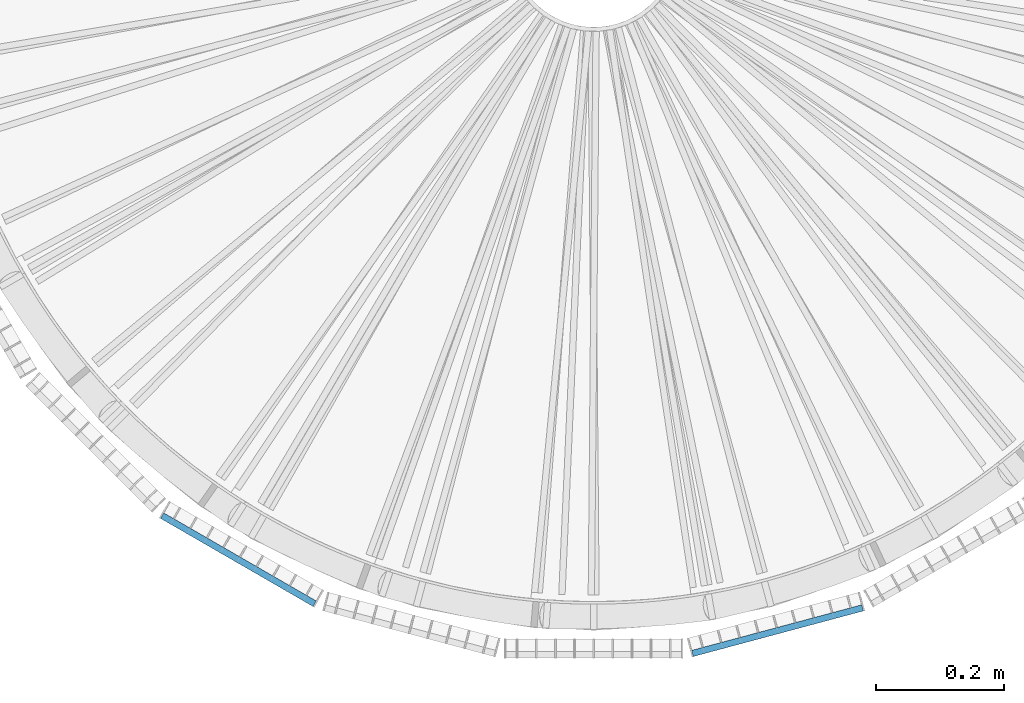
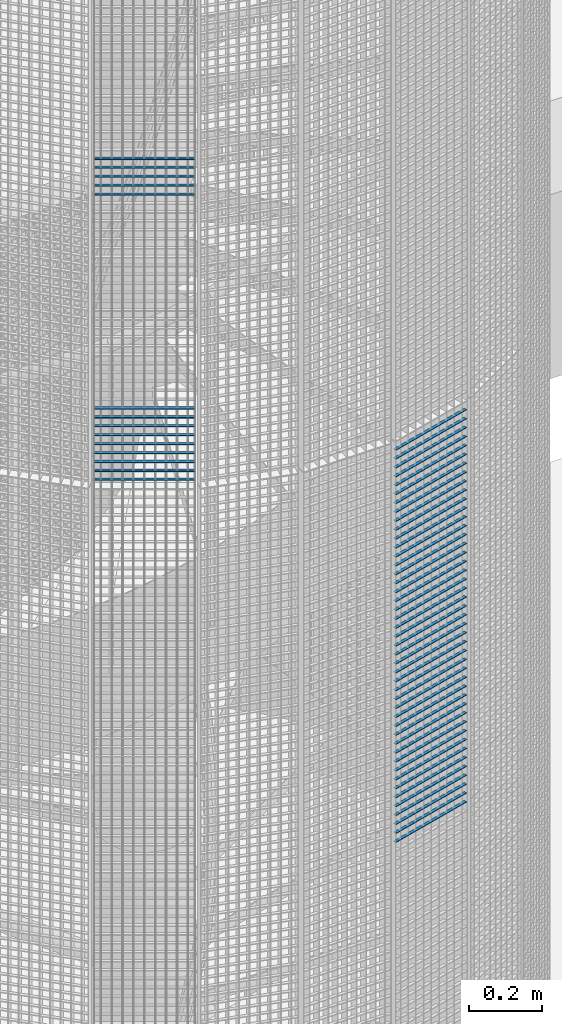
# One storey, part 148 of 1183: 59 beams, 2 elements without a shape of their own.
"""IFC2X3 building model written with IfcOpenShell, lengths in millimetres."""

from ifc_helpers import new_model, si_unit, frame, origin_with_axes, origin_2d_with_axis, place, context, subcontext, project, spatial, rectangle, extrude, material, type_object, element, aggregate, save


model = new_model("IFC2X3")

# Units and contexts
model_context = context("Model", 3, precision=1e-05, world=origin_with_axes())
body_context = subcontext(model_context, "Body", "Model", "MODEL_VIEW")
ifc_project = project(units=[si_unit("LENGTHUNIT", "METRE", prefix="MILLI"), si_unit("AREAUNIT", "SQUARE_METRE"), si_unit("VOLUMEUNIT", "CUBIC_METRE"), si_unit("MASSUNIT", "GRAM", prefix="KILO"), si_unit("TIMEUNIT", "SECOND"), si_unit("PLANEANGLEUNIT", "RADIAN"), si_unit("SOLIDANGLEUNIT", "STERADIAN"), si_unit("THERMODYNAMICTEMPERATUREUNIT", "DEGREE_CELSIUS"), si_unit("LUMINOUSINTENSITYUNIT", "LUMEN")], contexts=[model_context])

# Site, building, storey
site_placement = place(None, origin_with_axes())
site = spatial("IfcSite", under=ifc_project, at=site_placement, Name="Undefined", CompositionType="ELEMENT")
building_placement = place(site_placement, origin_with_axes())
building = spatial("IfcBuilding", under=site, at=building_placement, Name="Undefined", CompositionType="ELEMENT")
storey_placement = place(building_placement, origin_with_axes())
storey = spatial("IfcBuildingStorey", under=building, at=storey_placement, Name="Undefined", CompositionType="ELEMENT", Elevation=0.0)

# Assembly, beams
assembly_1_placement = place(storey_placement, origin_with_axes())
assembly_1 = element("IfcElementAssembly", 1, at=assembly_1_placement, inside=storey, Name="BORDURE", AssemblyPlace="NOTDEFINED", PredefinedType="NOTDEFINED")
ifc_material = material(Name="STEEL/S235JR")
beam_type = type_object("IfcBeamType", Name="PL2*10", PredefinedType="NOTDEFINED")
beam_1_placement = place(assembly_1_placement, frame((-676.24804453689, -895.30396491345, 12270.0), z_axis=(-0.49999999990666, -0.866025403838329, 0.0), x_axis=(0.866025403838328, -0.49999999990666, 0.0)))
beam_1 = element("IfcBeam", 2, at=beam_1_placement, type_object=beam_type, material=ifc_material, Name="ENTRETOISE", context=body_context, shape_type="SweptSolid", body=[
    extrude(rectangle(XDim=2.0, YDim=10.0, at=origin_2d_with_axis()), frame((275.999999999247, 9.09494701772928e-13, 1.53210777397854e-14), z_axis=(-1.0, 0.0, 0.0), x_axis=(0.0, -1.0, 0.0)), (0.0, 0.0, 1.0), 276.0),
])
beam_2_placement = place(assembly_1_placement, frame((-676.248044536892, -895.303964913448, 12990.0), z_axis=(-0.49999999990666, -0.866025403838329, 0.0), x_axis=(0.866025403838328, -0.49999999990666, 0.0)))
beam_2 = element("IfcBeam", 3, at=beam_2_placement, type_object=beam_type, material=ifc_material, Name="ENTRETOISE", context=body_context, shape_type="SweptSolid", body=[
    extrude(rectangle(XDim=2.0, YDim=10.0, at=origin_2d_with_axis()), frame((275.999999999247, 9.09494701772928e-13, 1.53210777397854e-14), z_axis=(-1.0, 0.0, 0.0), x_axis=(0.0, -1.0, 0.0)), (0.0, 0.0, 1.0), 276.0),
])
beam_3_placement = place(assembly_1_placement, frame((-676.24804453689, -895.30396491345, 12240.0), z_axis=(-0.49999999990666, -0.866025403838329, 0.0), x_axis=(0.866025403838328, -0.49999999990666, 0.0)))
beam_3 = element("IfcBeam", 4, at=beam_3_placement, type_object=beam_type, material=ifc_material, Name="ENTRETOISE", context=body_context, shape_type="SweptSolid", body=[
    extrude(rectangle(XDim=2.0, YDim=10.0, at=origin_2d_with_axis()), frame((275.999999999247, 9.09494701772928e-13, 1.53210777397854e-14), z_axis=(-1.0, 0.0, 0.0), x_axis=(0.0, -1.0, 0.0)), (0.0, 0.0, 1.0), 276.0),
])
beam_4_placement = place(assembly_1_placement, frame((-676.248044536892, -895.303964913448, 13020.0), z_axis=(-0.49999999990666, -0.866025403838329, 0.0), x_axis=(0.866025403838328, -0.49999999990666, 0.0)))
beam_4 = element("IfcBeam", 5, at=beam_4_placement, type_object=beam_type, material=ifc_material, Name="ENTRETOISE", context=body_context, shape_type="SweptSolid", body=[
    extrude(rectangle(XDim=2.0, YDim=10.0, at=origin_2d_with_axis()), frame((275.999999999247, 9.09494701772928e-13, 1.53210777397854e-14), z_axis=(-1.0, 0.0, 0.0), x_axis=(0.0, -1.0, 0.0)), (0.0, 0.0, 1.0), 276.0),
])
beam_5_placement = place(assembly_1_placement, frame((-676.24804453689, -895.30396491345, 12210.0), z_axis=(-0.49999999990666, -0.866025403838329, 0.0), x_axis=(0.866025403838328, -0.49999999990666, 0.0)))
beam_5 = element("IfcBeam", 6, at=beam_5_placement, type_object=beam_type, material=ifc_material, Name="ENTRETOISE", context=body_context, shape_type="SweptSolid", body=[
    extrude(rectangle(XDim=2.0, YDim=10.0, at=origin_2d_with_axis()), frame((275.999999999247, 9.09494701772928e-13, 1.53210777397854e-14), z_axis=(-1.0, 0.0, 0.0), x_axis=(0.0, -1.0, 0.0)), (0.0, 0.0, 1.0), 276.0),
])
beam_6_placement = place(assembly_1_placement, frame((-676.24804453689, -895.30396491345, 12180.0), z_axis=(-0.49999999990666, -0.866025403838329, 0.0), x_axis=(0.866025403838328, -0.49999999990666, 0.0)))
beam_6 = element("IfcBeam", 7, at=beam_6_placement, type_object=beam_type, material=ifc_material, Name="ENTRETOISE", context=body_context, shape_type="SweptSolid", body=[
    extrude(rectangle(XDim=2.0, YDim=10.0, at=origin_2d_with_axis()), frame((275.999999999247, 9.09494701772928e-13, 1.53210777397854e-14), z_axis=(-1.0, 0.0, 0.0), x_axis=(0.0, -1.0, 0.0)), (0.0, 0.0, 1.0), 276.0),
])
beam_7_placement = place(assembly_1_placement, frame((-676.248044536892, -895.303964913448, 13050.0), z_axis=(-0.49999999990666, -0.866025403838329, 0.0), x_axis=(0.866025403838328, -0.49999999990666, 0.0)))
beam_7 = element("IfcBeam", 8, at=beam_7_placement, type_object=beam_type, material=ifc_material, Name="ENTRETOISE", context=body_context, shape_type="SweptSolid", body=[
    extrude(rectangle(XDim=2.0, YDim=10.0, at=origin_2d_with_axis()), frame((275.999999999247, 9.09494701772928e-13, 1.53210777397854e-14), z_axis=(-1.0, 0.0, 0.0), x_axis=(0.0, -1.0, 0.0)), (0.0, 0.0, 1.0), 276.0),
])
beam_8_placement = place(assembly_1_placement, frame((-676.24804453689, -895.30396491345, 12150.0), z_axis=(-0.49999999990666, -0.866025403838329, 0.0), x_axis=(0.866025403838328, -0.49999999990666, 0.0)))
beam_8 = element("IfcBeam", 9, at=beam_8_placement, type_object=beam_type, material=ifc_material, Name="ENTRETOISE", context=body_context, shape_type="SweptSolid", body=[
    extrude(rectangle(XDim=2.0, YDim=10.0, at=origin_2d_with_axis()), frame((275.999999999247, 9.09494701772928e-13, 1.53210777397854e-14), z_axis=(-1.0, 0.0, 0.0), x_axis=(0.0, -1.0, 0.0)), (0.0, 0.0, 1.0), 276.0),
])
beam_9_placement = place(assembly_1_placement, frame((-676.248044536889, -895.30396491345, 12120.0), z_axis=(-0.49999999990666, -0.866025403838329, 0.0), x_axis=(0.866025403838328, -0.49999999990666, 0.0)))
beam_9 = element("IfcBeam", 10, at=beam_9_placement, type_object=beam_type, material=ifc_material, Name="ENTRETOISE", context=body_context, shape_type="SweptSolid", body=[
    extrude(rectangle(XDim=2.0, YDim=10.0, at=origin_2d_with_axis()), frame((275.999999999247, 9.09494701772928e-13, 1.53210777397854e-14), z_axis=(-1.0, 0.0, 0.0), x_axis=(0.0, -1.0, 0.0)), (0.0, 0.0, 1.0), 276.0),
])
beam_10_placement = place(assembly_1_placement, frame((-676.248044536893, -895.303964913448, 13080.0), z_axis=(-0.49999999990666, -0.866025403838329, 0.0), x_axis=(0.866025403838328, -0.49999999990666, 0.0)))
beam_10 = element("IfcBeam", 11, at=beam_10_placement, type_object=beam_type, material=ifc_material, Name="ENTRETOISE", context=body_context, shape_type="SweptSolid", body=[
    extrude(rectangle(XDim=2.0, YDim=10.0, at=origin_2d_with_axis()), frame((275.999999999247, 9.09494701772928e-13, 1.53210777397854e-14), z_axis=(-1.0, 0.0, 0.0), x_axis=(0.0, -1.0, 0.0)), (0.0, 0.0, 1.0), 276.0),
])
beam_11_placement = place(assembly_1_placement, frame((-676.248044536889, -895.30396491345, 12090.0), z_axis=(-0.49999999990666, -0.866025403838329, 0.0), x_axis=(0.866025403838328, -0.49999999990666, 0.0)))
beam_11 = element("IfcBeam", 12, at=beam_11_placement, type_object=beam_type, material=ifc_material, Name="ENTRETOISE", context=body_context, shape_type="SweptSolid", body=[
    extrude(rectangle(XDim=2.0, YDim=10.0, at=origin_2d_with_axis()), frame((275.999999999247, 9.09494701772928e-13, 1.53210777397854e-14), z_axis=(-1.0, 0.0, 0.0), x_axis=(0.0, -1.0, 0.0)), (0.0, 0.0, 1.0), 276.0),
])
beam_12_placement = place(assembly_1_placement, frame((-676.248044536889, -895.30396491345, 12060.0), z_axis=(-0.49999999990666, -0.866025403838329, 0.0), x_axis=(0.866025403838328, -0.49999999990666, 0.0)))
beam_12 = element("IfcBeam", 13, at=beam_12_placement, type_object=beam_type, material=ifc_material, Name="ENTRETOISE", context=body_context, shape_type="SweptSolid", body=[
    extrude(rectangle(XDim=2.0, YDim=10.0, at=origin_2d_with_axis()), frame((275.999999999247, 9.09494701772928e-13, 1.53210777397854e-14), z_axis=(-1.0, 0.0, 0.0), x_axis=(0.0, -1.0, 0.0)), (0.0, 0.0, 1.0), 276.0),
])
beam_13_placement = place(assembly_1_placement, frame((-676.248044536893, -895.303964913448, 13110.0), z_axis=(-0.49999999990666, -0.866025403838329, 0.0), x_axis=(0.866025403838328, -0.49999999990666, 0.0)))
beam_13 = element("IfcBeam", 14, at=beam_13_placement, type_object=beam_type, material=ifc_material, Name="ENTRETOISE", context=body_context, shape_type="SweptSolid", body=[
    extrude(rectangle(XDim=2.0, YDim=10.0, at=origin_2d_with_axis()), frame((275.999999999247, 9.09494701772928e-13, 1.53210777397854e-14), z_axis=(-1.0, 0.0, 0.0), x_axis=(0.0, -1.0, 0.0)), (0.0, 0.0, 1.0), 276.0),
])
beam_14_placement = place(assembly_1_placement, frame((-676.248044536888, -895.30396491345, 12030.0), z_axis=(-0.49999999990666, -0.866025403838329, 0.0), x_axis=(0.866025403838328, -0.49999999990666, 0.0)))
beam_14 = element("IfcBeam", 15, at=beam_14_placement, type_object=beam_type, material=ifc_material, Name="ENTRETOISE", context=body_context, shape_type="SweptSolid", body=[
    extrude(rectangle(XDim=2.0, YDim=10.0, at=origin_2d_with_axis()), frame((275.999999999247, 9.09494701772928e-13, 1.53210777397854e-14), z_axis=(-1.0, 0.0, 0.0), x_axis=(0.0, -1.0, 0.0)), (0.0, 0.0, 1.0), 276.0),
])
aggregate(assembly_1, [beam_1, beam_2, beam_3, beam_4, beam_5, beam_6, beam_7, beam_8, beam_9, beam_10, beam_11, beam_12, beam_13, beam_14])

assembly_2_placement = place(storey_placement, origin_with_axes())
assembly_2 = element("IfcElementAssembly", 16, at=assembly_2_placement, inside=storey, Name="BORDURE", AssemblyPlace="NOTDEFINED", PredefinedType="NOTDEFINED")
beam_15_placement = place(assembly_2_placement, frame((154.895926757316, -1111.25508286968, 11970.0), z_axis=(0.258819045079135, -0.965925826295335, 0.0), x_axis=(0.965925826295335, 0.258819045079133, 0.0)))
beam_15 = element("IfcBeam", 17, at=beam_15_placement, type_object=beam_type, material=ifc_material, Name="ENTRETOISE", context=body_context, shape_type="SweptSolid", body=[
    extrude(rectangle(XDim=2.0, YDim=10.0, at=origin_2d_with_axis()), frame((275.999999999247, 9.09494701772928e-13, 1.53210777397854e-14), z_axis=(-1.0, 0.0, 0.0), x_axis=(0.0, -1.0, 0.0)), (0.0, 0.0, 1.0), 276.0),
])
beam_16_placement = place(assembly_2_placement, frame((154.895926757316, -1111.25508286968, 11940.0), z_axis=(0.258819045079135, -0.965925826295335, 0.0), x_axis=(0.965925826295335, 0.258819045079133, 0.0)))
beam_16 = element("IfcBeam", 18, at=beam_16_placement, type_object=beam_type, material=ifc_material, Name="ENTRETOISE", context=body_context, shape_type="SweptSolid", body=[
    extrude(rectangle(XDim=2.0, YDim=10.0, at=origin_2d_with_axis()), frame((275.999999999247, 9.09494701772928e-13, 1.53210777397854e-14), z_axis=(-1.0, 0.0, 0.0), x_axis=(0.0, -1.0, 0.0)), (0.0, 0.0, 1.0), 276.0),
])
beam_17_placement = place(assembly_2_placement, frame((154.895926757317, -1111.25508286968, 11910.0), z_axis=(0.258819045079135, -0.965925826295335, 0.0), x_axis=(0.965925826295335, 0.258819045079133, 0.0)))
beam_17 = element("IfcBeam", 19, at=beam_17_placement, type_object=beam_type, material=ifc_material, Name="ENTRETOISE", context=body_context, shape_type="SweptSolid", body=[
    extrude(rectangle(XDim=2.0, YDim=10.0, at=origin_2d_with_axis()), frame((275.999999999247, 9.09494701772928e-13, 1.53210777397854e-14), z_axis=(-1.0, 0.0, 0.0), x_axis=(0.0, -1.0, 0.0)), (0.0, 0.0, 1.0), 276.0),
])
beam_18_placement = place(assembly_2_placement, frame((154.895926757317, -1111.25508286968, 11880.0), z_axis=(0.258819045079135, -0.965925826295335, 0.0), x_axis=(0.965925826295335, 0.258819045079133, 0.0)))
beam_18 = element("IfcBeam", 20, at=beam_18_placement, type_object=beam_type, material=ifc_material, Name="ENTRETOISE", context=body_context, shape_type="SweptSolid", body=[
    extrude(rectangle(XDim=2.0, YDim=10.0, at=origin_2d_with_axis()), frame((275.999999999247, 9.09494701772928e-13, 1.53210777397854e-14), z_axis=(-1.0, 0.0, 0.0), x_axis=(0.0, -1.0, 0.0)), (0.0, 0.0, 1.0), 276.0),
])
beam_19_placement = place(assembly_2_placement, frame((154.895926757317, -1111.25508286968, 11850.0), z_axis=(0.258819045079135, -0.965925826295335, 0.0), x_axis=(0.965925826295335, 0.258819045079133, 0.0)))
beam_19 = element("IfcBeam", 21, at=beam_19_placement, type_object=beam_type, material=ifc_material, Name="ENTRETOISE", context=body_context, shape_type="SweptSolid", body=[
    extrude(rectangle(XDim=2.0, YDim=10.0, at=origin_2d_with_axis()), frame((275.999999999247, 9.09494701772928e-13, 1.53210777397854e-14), z_axis=(-1.0, 0.0, 0.0), x_axis=(0.0, -1.0, 0.0)), (0.0, 0.0, 1.0), 276.0),
])
beam_20_placement = place(assembly_2_placement, frame((154.895926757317, -1111.25508286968, 11820.0), z_axis=(0.258819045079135, -0.965925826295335, 0.0), x_axis=(0.965925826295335, 0.258819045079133, 0.0)))
beam_20 = element("IfcBeam", 22, at=beam_20_placement, type_object=beam_type, material=ifc_material, Name="ENTRETOISE", context=body_context, shape_type="SweptSolid", body=[
    extrude(rectangle(XDim=2.0, YDim=10.0, at=origin_2d_with_axis()), frame((275.999999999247, 9.09494701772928e-13, 1.53210777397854e-14), z_axis=(-1.0, 0.0, 0.0), x_axis=(0.0, -1.0, 0.0)), (0.0, 0.0, 1.0), 276.0),
])
beam_21_placement = place(assembly_2_placement, frame((154.895926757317, -1111.25508286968, 11790.0), z_axis=(0.258819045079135, -0.965925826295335, 0.0), x_axis=(0.965925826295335, 0.258819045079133, 0.0)))
beam_21 = element("IfcBeam", 23, at=beam_21_placement, type_object=beam_type, material=ifc_material, Name="ENTRETOISE", context=body_context, shape_type="SweptSolid", body=[
    extrude(rectangle(XDim=2.0, YDim=10.0, at=origin_2d_with_axis()), frame((275.999999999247, 9.09494701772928e-13, 1.53210777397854e-14), z_axis=(-1.0, 0.0, 0.0), x_axis=(0.0, -1.0, 0.0)), (0.0, 0.0, 1.0), 276.0),
])
beam_22_placement = place(assembly_2_placement, frame((154.895926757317, -1111.25508286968, 11760.0), z_axis=(0.258819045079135, -0.965925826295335, 0.0), x_axis=(0.965925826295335, 0.258819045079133, 0.0)))
beam_22 = element("IfcBeam", 24, at=beam_22_placement, type_object=beam_type, material=ifc_material, Name="ENTRETOISE", context=body_context, shape_type="SweptSolid", body=[
    extrude(rectangle(XDim=2.0, YDim=10.0, at=origin_2d_with_axis()), frame((275.999999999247, 9.09494701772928e-13, 1.53210777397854e-14), z_axis=(-1.0, 0.0, 0.0), x_axis=(0.0, -1.0, 0.0)), (0.0, 0.0, 1.0), 276.0),
])
beam_23_placement = place(assembly_2_placement, frame((154.895926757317, -1111.25508286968, 11730.0), z_axis=(0.258819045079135, -0.965925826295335, 0.0), x_axis=(0.965925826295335, 0.258819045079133, 0.0)))
beam_23 = element("IfcBeam", 25, at=beam_23_placement, type_object=beam_type, material=ifc_material, Name="ENTRETOISE", context=body_context, shape_type="SweptSolid", body=[
    extrude(rectangle(XDim=2.0, YDim=10.0, at=origin_2d_with_axis()), frame((275.999999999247, 9.09494701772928e-13, 1.53210777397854e-14), z_axis=(-1.0, 0.0, 0.0), x_axis=(0.0, -1.0, 0.0)), (0.0, 0.0, 1.0), 276.0),
])
beam_24_placement = place(assembly_2_placement, frame((154.895926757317, -1111.25508286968, 11700.0), z_axis=(0.258819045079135, -0.965925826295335, 0.0), x_axis=(0.965925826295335, 0.258819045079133, 0.0)))
beam_24 = element("IfcBeam", 26, at=beam_24_placement, type_object=beam_type, material=ifc_material, Name="ENTRETOISE", context=body_context, shape_type="SweptSolid", body=[
    extrude(rectangle(XDim=2.0, YDim=10.0, at=origin_2d_with_axis()), frame((275.999999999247, 9.09494701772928e-13, 1.53210777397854e-14), z_axis=(-1.0, 0.0, 0.0), x_axis=(0.0, -1.0, 0.0)), (0.0, 0.0, 1.0), 276.0),
])
beam_25_placement = place(assembly_2_placement, frame((154.895926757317, -1111.25508286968, 11670.0), z_axis=(0.258819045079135, -0.965925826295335, 0.0), x_axis=(0.965925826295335, 0.258819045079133, 0.0)))
beam_25 = element("IfcBeam", 27, at=beam_25_placement, type_object=beam_type, material=ifc_material, Name="ENTRETOISE", context=body_context, shape_type="SweptSolid", body=[
    extrude(rectangle(XDim=2.0, YDim=10.0, at=origin_2d_with_axis()), frame((275.999999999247, 9.09494701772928e-13, 1.53210777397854e-14), z_axis=(-1.0, 0.0, 0.0), x_axis=(0.0, -1.0, 0.0)), (0.0, 0.0, 1.0), 276.0),
])
beam_26_placement = place(assembly_2_placement, frame((154.895926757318, -1111.25508286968, 11640.0), z_axis=(0.258819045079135, -0.965925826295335, 0.0), x_axis=(0.965925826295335, 0.258819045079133, 0.0)))
beam_26 = element("IfcBeam", 28, at=beam_26_placement, type_object=beam_type, material=ifc_material, Name="ENTRETOISE", context=body_context, shape_type="SweptSolid", body=[
    extrude(rectangle(XDim=2.0, YDim=10.0, at=origin_2d_with_axis()), frame((275.999999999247, 9.09494701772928e-13, 1.53210777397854e-14), z_axis=(-1.0, 0.0, 0.0), x_axis=(0.0, -1.0, 0.0)), (0.0, 0.0, 1.0), 276.0),
])
beam_27_placement = place(assembly_2_placement, frame((154.895926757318, -1111.25508286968, 11610.0), z_axis=(0.258819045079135, -0.965925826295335, 0.0), x_axis=(0.965925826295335, 0.258819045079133, 0.0)))
beam_27 = element("IfcBeam", 29, at=beam_27_placement, type_object=beam_type, material=ifc_material, Name="ENTRETOISE", context=body_context, shape_type="SweptSolid", body=[
    extrude(rectangle(XDim=2.0, YDim=10.0, at=origin_2d_with_axis()), frame((275.999999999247, 9.09494701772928e-13, 1.53210777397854e-14), z_axis=(-1.0, 0.0, 0.0), x_axis=(0.0, -1.0, 0.0)), (0.0, 0.0, 1.0), 276.0),
])
beam_28_placement = place(assembly_2_placement, frame((154.895926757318, -1111.25508286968, 11580.0), z_axis=(0.258819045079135, -0.965925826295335, 0.0), x_axis=(0.965925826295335, 0.258819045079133, 0.0)))
beam_28 = element("IfcBeam", 30, at=beam_28_placement, type_object=beam_type, material=ifc_material, Name="ENTRETOISE", context=body_context, shape_type="SweptSolid", body=[
    extrude(rectangle(XDim=2.0, YDim=10.0, at=origin_2d_with_axis()), frame((275.999999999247, 9.09494701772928e-13, 1.53210777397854e-14), z_axis=(-1.0, 0.0, 0.0), x_axis=(0.0, -1.0, 0.0)), (0.0, 0.0, 1.0), 276.0),
])
beam_29_placement = place(assembly_2_placement, frame((154.895926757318, -1111.25508286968, 11550.0), z_axis=(0.258819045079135, -0.965925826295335, 0.0), x_axis=(0.965925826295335, 0.258819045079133, 0.0)))
beam_29 = element("IfcBeam", 31, at=beam_29_placement, type_object=beam_type, material=ifc_material, Name="ENTRETOISE", context=body_context, shape_type="SweptSolid", body=[
    extrude(rectangle(XDim=2.0, YDim=10.0, at=origin_2d_with_axis()), frame((275.999999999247, 9.09494701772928e-13, 1.53210777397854e-14), z_axis=(-1.0, 0.0, 0.0), x_axis=(0.0, -1.0, 0.0)), (0.0, 0.0, 1.0), 276.0),
])
beam_30_placement = place(assembly_2_placement, frame((154.895926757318, -1111.25508286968, 11520.0), z_axis=(0.258819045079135, -0.965925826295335, 0.0), x_axis=(0.965925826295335, 0.258819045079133, 0.0)))
beam_30 = element("IfcBeam", 32, at=beam_30_placement, type_object=beam_type, material=ifc_material, Name="ENTRETOISE", context=body_context, shape_type="SweptSolid", body=[
    extrude(rectangle(XDim=2.0, YDim=10.0, at=origin_2d_with_axis()), frame((275.999999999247, 9.09494701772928e-13, 1.53210777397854e-14), z_axis=(-1.0, 0.0, 0.0), x_axis=(0.0, -1.0, 0.0)), (0.0, 0.0, 1.0), 276.0),
])
beam_31_placement = place(assembly_2_placement, frame((154.895926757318, -1111.25508286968, 11490.0), z_axis=(0.258819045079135, -0.965925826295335, 0.0), x_axis=(0.965925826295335, 0.258819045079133, 0.0)))
beam_31 = element("IfcBeam", 33, at=beam_31_placement, type_object=beam_type, material=ifc_material, Name="ENTRETOISE", context=body_context, shape_type="SweptSolid", body=[
    extrude(rectangle(XDim=2.0, YDim=10.0, at=origin_2d_with_axis()), frame((275.999999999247, 9.09494701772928e-13, 1.53210777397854e-14), z_axis=(-1.0, 0.0, 0.0), x_axis=(0.0, -1.0, 0.0)), (0.0, 0.0, 1.0), 276.0),
])
beam_32_placement = place(assembly_2_placement, frame((154.895926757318, -1111.25508286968, 11460.0), z_axis=(0.258819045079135, -0.965925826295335, 0.0), x_axis=(0.965925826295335, 0.258819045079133, 0.0)))
beam_32 = element("IfcBeam", 34, at=beam_32_placement, type_object=beam_type, material=ifc_material, Name="ENTRETOISE", context=body_context, shape_type="SweptSolid", body=[
    extrude(rectangle(XDim=2.0, YDim=10.0, at=origin_2d_with_axis()), frame((275.999999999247, 9.09494701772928e-13, 1.53210777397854e-14), z_axis=(-1.0, 0.0, 0.0), x_axis=(0.0, -1.0, 0.0)), (0.0, 0.0, 1.0), 276.0),
])
beam_33_placement = place(assembly_2_placement, frame((154.895926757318, -1111.25508286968, 11430.0), z_axis=(0.258819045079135, -0.965925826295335, 0.0), x_axis=(0.965925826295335, 0.258819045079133, 0.0)))
beam_33 = element("IfcBeam", 35, at=beam_33_placement, type_object=beam_type, material=ifc_material, Name="ENTRETOISE", context=body_context, shape_type="SweptSolid", body=[
    extrude(rectangle(XDim=2.0, YDim=10.0, at=origin_2d_with_axis()), frame((275.999999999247, 9.09494701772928e-13, 1.53210777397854e-14), z_axis=(-1.0, 0.0, 0.0), x_axis=(0.0, -1.0, 0.0)), (0.0, 0.0, 1.0), 276.0),
])
beam_34_placement = place(assembly_2_placement, frame((154.895926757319, -1111.25508286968, 11400.0), z_axis=(0.258819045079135, -0.965925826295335, 0.0), x_axis=(0.965925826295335, 0.258819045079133, 0.0)))
beam_34 = element("IfcBeam", 36, at=beam_34_placement, type_object=beam_type, material=ifc_material, Name="ENTRETOISE", context=body_context, shape_type="SweptSolid", body=[
    extrude(rectangle(XDim=2.0, YDim=10.0, at=origin_2d_with_axis()), frame((275.999999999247, 9.09494701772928e-13, 1.53210777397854e-14), z_axis=(-1.0, 0.0, 0.0), x_axis=(0.0, -1.0, 0.0)), (0.0, 0.0, 1.0), 276.0),
])
beam_35_placement = place(assembly_2_placement, frame((154.895926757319, -1111.25508286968, 11370.0), z_axis=(0.258819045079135, -0.965925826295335, 0.0), x_axis=(0.965925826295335, 0.258819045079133, 0.0)))
beam_35 = element("IfcBeam", 37, at=beam_35_placement, type_object=beam_type, material=ifc_material, Name="ENTRETOISE", context=body_context, shape_type="SweptSolid", body=[
    extrude(rectangle(XDim=2.0, YDim=10.0, at=origin_2d_with_axis()), frame((275.999999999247, 9.09494701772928e-13, 1.53210777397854e-14), z_axis=(-1.0, 0.0, 0.0), x_axis=(0.0, -1.0, 0.0)), (0.0, 0.0, 1.0), 276.0),
])
beam_36_placement = place(assembly_2_placement, frame((154.895926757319, -1111.25508286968, 11340.0), z_axis=(0.258819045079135, -0.965925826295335, 0.0), x_axis=(0.965925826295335, 0.258819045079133, 0.0)))
beam_36 = element("IfcBeam", 38, at=beam_36_placement, type_object=beam_type, material=ifc_material, Name="ENTRETOISE", context=body_context, shape_type="SweptSolid", body=[
    extrude(rectangle(XDim=2.0, YDim=10.0, at=origin_2d_with_axis()), frame((275.999999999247, 9.09494701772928e-13, 1.53210777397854e-14), z_axis=(-1.0, 0.0, 0.0), x_axis=(0.0, -1.0, 0.0)), (0.0, 0.0, 1.0), 276.0),
])
beam_37_placement = place(assembly_2_placement, frame((154.895926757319, -1111.25508286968, 11310.0), z_axis=(0.258819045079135, -0.965925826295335, 0.0), x_axis=(0.965925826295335, 0.258819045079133, 0.0)))
beam_37 = element("IfcBeam", 39, at=beam_37_placement, type_object=beam_type, material=ifc_material, Name="ENTRETOISE", context=body_context, shape_type="SweptSolid", body=[
    extrude(rectangle(XDim=2.0, YDim=10.0, at=origin_2d_with_axis()), frame((275.999999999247, 9.09494701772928e-13, 1.53210777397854e-14), z_axis=(-1.0, 0.0, 0.0), x_axis=(0.0, -1.0, 0.0)), (0.0, 0.0, 1.0), 276.0),
])
beam_38_placement = place(assembly_2_placement, frame((154.895926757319, -1111.25508286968, 11280.0), z_axis=(0.258819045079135, -0.965925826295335, 0.0), x_axis=(0.965925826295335, 0.258819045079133, 0.0)))
beam_38 = element("IfcBeam", 40, at=beam_38_placement, type_object=beam_type, material=ifc_material, Name="ENTRETOISE", context=body_context, shape_type="SweptSolid", body=[
    extrude(rectangle(XDim=2.0, YDim=10.0, at=origin_2d_with_axis()), frame((275.999999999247, 9.09494701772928e-13, 1.53210777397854e-14), z_axis=(-1.0, 0.0, 0.0), x_axis=(0.0, -1.0, 0.0)), (0.0, 0.0, 1.0), 276.0),
])
beam_39_placement = place(assembly_2_placement, frame((154.895926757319, -1111.25508286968, 11250.0), z_axis=(0.258819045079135, -0.965925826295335, 0.0), x_axis=(0.965925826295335, 0.258819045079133, 0.0)))
beam_39 = element("IfcBeam", 41, at=beam_39_placement, type_object=beam_type, material=ifc_material, Name="ENTRETOISE", context=body_context, shape_type="SweptSolid", body=[
    extrude(rectangle(XDim=2.0, YDim=10.0, at=origin_2d_with_axis()), frame((275.999999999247, 9.09494701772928e-13, 1.53210777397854e-14), z_axis=(-1.0, 0.0, 0.0), x_axis=(0.0, -1.0, 0.0)), (0.0, 0.0, 1.0), 276.0),
])
beam_40_placement = place(assembly_2_placement, frame((154.895926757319, -1111.25508286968, 11220.0), z_axis=(0.258819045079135, -0.965925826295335, 0.0), x_axis=(0.965925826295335, 0.258819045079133, 0.0)))
beam_40 = element("IfcBeam", 42, at=beam_40_placement, type_object=beam_type, material=ifc_material, Name="ENTRETOISE", context=body_context, shape_type="SweptSolid", body=[
    extrude(rectangle(XDim=2.0, YDim=10.0, at=origin_2d_with_axis()), frame((275.999999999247, 9.09494701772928e-13, 1.53210777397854e-14), z_axis=(-1.0, 0.0, 0.0), x_axis=(0.0, -1.0, 0.0)), (0.0, 0.0, 1.0), 276.0),
])
beam_41_placement = place(assembly_2_placement, frame((154.895926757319, -1111.25508286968, 11190.0), z_axis=(0.258819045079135, -0.965925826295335, 0.0), x_axis=(0.965925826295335, 0.258819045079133, 0.0)))
beam_41 = element("IfcBeam", 43, at=beam_41_placement, type_object=beam_type, material=ifc_material, Name="ENTRETOISE", context=body_context, shape_type="SweptSolid", body=[
    extrude(rectangle(XDim=2.0, YDim=10.0, at=origin_2d_with_axis()), frame((275.999999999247, 9.09494701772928e-13, 1.53210777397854e-14), z_axis=(-1.0, 0.0, 0.0), x_axis=(0.0, -1.0, 0.0)), (0.0, 0.0, 1.0), 276.0),
])
beam_42_placement = place(assembly_2_placement, frame((154.895926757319, -1111.25508286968, 11160.0), z_axis=(0.258819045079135, -0.965925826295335, 0.0), x_axis=(0.965925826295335, 0.258819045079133, 0.0)))
beam_42 = element("IfcBeam", 44, at=beam_42_placement, type_object=beam_type, material=ifc_material, Name="ENTRETOISE", context=body_context, shape_type="SweptSolid", body=[
    extrude(rectangle(XDim=2.0, YDim=10.0, at=origin_2d_with_axis()), frame((275.999999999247, 9.09494701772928e-13, 1.53210777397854e-14), z_axis=(-1.0, 0.0, 0.0), x_axis=(0.0, -1.0, 0.0)), (0.0, 0.0, 1.0), 276.0),
])
beam_43_placement = place(assembly_2_placement, frame((154.89592675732, -1111.25508286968, 11130.0), z_axis=(0.258819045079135, -0.965925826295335, 0.0), x_axis=(0.965925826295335, 0.258819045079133, 0.0)))
beam_43 = element("IfcBeam", 45, at=beam_43_placement, type_object=beam_type, material=ifc_material, Name="ENTRETOISE", context=body_context, shape_type="SweptSolid", body=[
    extrude(rectangle(XDim=2.0, YDim=10.0, at=origin_2d_with_axis()), frame((275.999999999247, 9.09494701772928e-13, 1.53210777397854e-14), z_axis=(-1.0, 0.0, 0.0), x_axis=(0.0, -1.0, 0.0)), (0.0, 0.0, 1.0), 276.0),
])
beam_44_placement = place(assembly_2_placement, frame((154.89592675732, -1111.25508286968, 11100.0), z_axis=(0.258819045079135, -0.965925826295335, 0.0), x_axis=(0.965925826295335, 0.258819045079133, 0.0)))
beam_44 = element("IfcBeam", 46, at=beam_44_placement, type_object=beam_type, material=ifc_material, Name="ENTRETOISE", context=body_context, shape_type="SweptSolid", body=[
    extrude(rectangle(XDim=2.0, YDim=10.0, at=origin_2d_with_axis()), frame((275.999999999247, 9.09494701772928e-13, 1.53210777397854e-14), z_axis=(-1.0, 0.0, 0.0), x_axis=(0.0, -1.0, 0.0)), (0.0, 0.0, 1.0), 276.0),
])
beam_45_placement = place(assembly_2_placement, frame((154.89592675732, -1111.25508286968, 11070.0), z_axis=(0.258819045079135, -0.965925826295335, 0.0), x_axis=(0.965925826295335, 0.258819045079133, 0.0)))
beam_45 = element("IfcBeam", 47, at=beam_45_placement, type_object=beam_type, material=ifc_material, Name="ENTRETOISE", context=body_context, shape_type="SweptSolid", body=[
    extrude(rectangle(XDim=2.0, YDim=10.0, at=origin_2d_with_axis()), frame((275.999999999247, 9.09494701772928e-13, 1.53210777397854e-14), z_axis=(-1.0, 0.0, 0.0), x_axis=(0.0, -1.0, 0.0)), (0.0, 0.0, 1.0), 276.0),
])
beam_46_placement = place(assembly_2_placement, frame((154.89592675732, -1111.25508286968, 11040.0), z_axis=(0.258819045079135, -0.965925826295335, 0.0), x_axis=(0.965925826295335, 0.258819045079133, 0.0)))
beam_46 = element("IfcBeam", 48, at=beam_46_placement, type_object=beam_type, material=ifc_material, Name="ENTRETOISE", context=body_context, shape_type="SweptSolid", body=[
    extrude(rectangle(XDim=2.0, YDim=10.0, at=origin_2d_with_axis()), frame((275.999999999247, 9.09494701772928e-13, 1.53210777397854e-14), z_axis=(-1.0, 0.0, 0.0), x_axis=(0.0, -1.0, 0.0)), (0.0, 0.0, 1.0), 276.0),
])
beam_47_placement = place(assembly_2_placement, frame((154.89592675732, -1111.25508286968, 11010.0), z_axis=(0.258819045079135, -0.965925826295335, 0.0), x_axis=(0.965925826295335, 0.258819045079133, 0.0)))
beam_47 = element("IfcBeam", 49, at=beam_47_placement, type_object=beam_type, material=ifc_material, Name="ENTRETOISE", context=body_context, shape_type="SweptSolid", body=[
    extrude(rectangle(XDim=2.0, YDim=10.0, at=origin_2d_with_axis()), frame((275.999999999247, 9.09494701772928e-13, 1.53210777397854e-14), z_axis=(-1.0, 0.0, 0.0), x_axis=(0.0, -1.0, 0.0)), (0.0, 0.0, 1.0), 276.0),
])
beam_48_placement = place(assembly_2_placement, frame((154.89592675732, -1111.25508286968, 10980.0), z_axis=(0.258819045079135, -0.965925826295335, 0.0), x_axis=(0.965925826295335, 0.258819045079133, 0.0)))
beam_48 = element("IfcBeam", 50, at=beam_48_placement, type_object=beam_type, material=ifc_material, Name="ENTRETOISE", context=body_context, shape_type="SweptSolid", body=[
    extrude(rectangle(XDim=2.0, YDim=10.0, at=origin_2d_with_axis()), frame((275.999999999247, 9.09494701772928e-13, 1.53210777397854e-14), z_axis=(-1.0, 0.0, 0.0), x_axis=(0.0, -1.0, 0.0)), (0.0, 0.0, 1.0), 276.0),
])
beam_49_placement = place(assembly_2_placement, frame((154.89592675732, -1111.25508286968, 10950.0), z_axis=(0.258819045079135, -0.965925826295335, 0.0), x_axis=(0.965925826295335, 0.258819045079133, 0.0)))
beam_49 = element("IfcBeam", 51, at=beam_49_placement, type_object=beam_type, material=ifc_material, Name="ENTRETOISE", context=body_context, shape_type="SweptSolid", body=[
    extrude(rectangle(XDim=2.0, YDim=10.0, at=origin_2d_with_axis()), frame((275.999999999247, 9.09494701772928e-13, 1.53210777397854e-14), z_axis=(-1.0, 0.0, 0.0), x_axis=(0.0, -1.0, 0.0)), (0.0, 0.0, 1.0), 276.0),
])
beam_50_placement = place(assembly_2_placement, frame((154.89592675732, -1111.25508286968, 10920.0), z_axis=(0.258819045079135, -0.965925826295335, 0.0), x_axis=(0.965925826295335, 0.258819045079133, 0.0)))
beam_50 = element("IfcBeam", 52, at=beam_50_placement, type_object=beam_type, material=ifc_material, Name="ENTRETOISE", context=body_context, shape_type="SweptSolid", body=[
    extrude(rectangle(XDim=2.0, YDim=10.0, at=origin_2d_with_axis()), frame((275.999999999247, 9.09494701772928e-13, 1.53210777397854e-14), z_axis=(-1.0, 0.0, 0.0), x_axis=(0.0, -1.0, 0.0)), (0.0, 0.0, 1.0), 276.0),
])
beam_51_placement = place(assembly_2_placement, frame((154.89592675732, -1111.25508286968, 10890.0), z_axis=(0.258819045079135, -0.965925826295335, 0.0), x_axis=(0.965925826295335, 0.258819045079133, 0.0)))
beam_51 = element("IfcBeam", 53, at=beam_51_placement, type_object=beam_type, material=ifc_material, Name="ENTRETOISE", context=body_context, shape_type="SweptSolid", body=[
    extrude(rectangle(XDim=2.0, YDim=10.0, at=origin_2d_with_axis()), frame((275.999999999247, 9.09494701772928e-13, 1.53210777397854e-14), z_axis=(-1.0, 0.0, 0.0), x_axis=(0.0, -1.0, 0.0)), (0.0, 0.0, 1.0), 276.0),
])
beam_52_placement = place(assembly_2_placement, frame((154.89592675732, -1111.25508286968, 10860.0), z_axis=(0.258819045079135, -0.965925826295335, 0.0), x_axis=(0.965925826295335, 0.258819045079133, 0.0)))
beam_52 = element("IfcBeam", 54, at=beam_52_placement, type_object=beam_type, material=ifc_material, Name="ENTRETOISE", context=body_context, shape_type="SweptSolid", body=[
    extrude(rectangle(XDim=2.0, YDim=10.0, at=origin_2d_with_axis()), frame((275.999999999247, 9.09494701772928e-13, 1.53210777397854e-14), z_axis=(-1.0, 0.0, 0.0), x_axis=(0.0, -1.0, 0.0)), (0.0, 0.0, 1.0), 276.0),
])
beam_53_placement = place(assembly_2_placement, frame((154.89592675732, -1111.25508286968, 10830.0), z_axis=(0.258819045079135, -0.965925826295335, 0.0), x_axis=(0.965925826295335, 0.258819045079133, 0.0)))
beam_53 = element("IfcBeam", 55, at=beam_53_placement, type_object=beam_type, material=ifc_material, Name="ENTRETOISE", context=body_context, shape_type="SweptSolid", body=[
    extrude(rectangle(XDim=2.0, YDim=10.0, at=origin_2d_with_axis()), frame((275.999999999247, 9.09494701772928e-13, 1.53210777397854e-14), z_axis=(-1.0, 0.0, 0.0), x_axis=(0.0, -1.0, 0.0)), (0.0, 0.0, 1.0), 276.0),
])
beam_54_placement = place(assembly_2_placement, frame((154.89592675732, -1111.25508286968, 10800.0), z_axis=(0.258819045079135, -0.965925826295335, 0.0), x_axis=(0.965925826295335, 0.258819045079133, 0.0)))
beam_54 = element("IfcBeam", 56, at=beam_54_placement, type_object=beam_type, material=ifc_material, Name="ENTRETOISE", context=body_context, shape_type="SweptSolid", body=[
    extrude(rectangle(XDim=2.0, YDim=10.0, at=origin_2d_with_axis()), frame((275.999999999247, 9.09494701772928e-13, 1.53210777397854e-14), z_axis=(-1.0, 0.0, 0.0), x_axis=(0.0, -1.0, 0.0)), (0.0, 0.0, 1.0), 276.0),
])
beam_55_placement = place(assembly_2_placement, frame((154.895926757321, -1111.25508286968, 10770.0), z_axis=(0.258819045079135, -0.965925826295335, 0.0), x_axis=(0.965925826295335, 0.258819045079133, 0.0)))
beam_55 = element("IfcBeam", 57, at=beam_55_placement, type_object=beam_type, material=ifc_material, Name="ENTRETOISE", context=body_context, shape_type="SweptSolid", body=[
    extrude(rectangle(XDim=2.0, YDim=10.0, at=origin_2d_with_axis()), frame((275.999999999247, 9.09494701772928e-13, 1.53210777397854e-14), z_axis=(-1.0, 0.0, 0.0), x_axis=(0.0, -1.0, 0.0)), (0.0, 0.0, 1.0), 276.0),
])
beam_56_placement = place(assembly_2_placement, frame((154.895926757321, -1111.25508286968, 10740.0), z_axis=(0.258819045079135, -0.965925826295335, 0.0), x_axis=(0.965925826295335, 0.258819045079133, 0.0)))
beam_56 = element("IfcBeam", 58, at=beam_56_placement, type_object=beam_type, material=ifc_material, Name="ENTRETOISE", context=body_context, shape_type="SweptSolid", body=[
    extrude(rectangle(XDim=2.0, YDim=10.0, at=origin_2d_with_axis()), frame((275.999999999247, 9.09494701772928e-13, 1.53210777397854e-14), z_axis=(-1.0, 0.0, 0.0), x_axis=(0.0, -1.0, 0.0)), (0.0, 0.0, 1.0), 276.0),
])
beam_57_placement = place(assembly_2_placement, frame((154.895926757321, -1111.25508286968, 10710.0), z_axis=(0.258819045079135, -0.965925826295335, 0.0), x_axis=(0.965925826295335, 0.258819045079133, 0.0)))
beam_57 = element("IfcBeam", 59, at=beam_57_placement, type_object=beam_type, material=ifc_material, Name="ENTRETOISE", context=body_context, shape_type="SweptSolid", body=[
    extrude(rectangle(XDim=2.0, YDim=10.0, at=origin_2d_with_axis()), frame((275.999999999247, 9.09494701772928e-13, 1.53210777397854e-14), z_axis=(-1.0, 0.0, 0.0), x_axis=(0.0, -1.0, 0.0)), (0.0, 0.0, 1.0), 276.0),
])
beam_58_placement = place(assembly_2_placement, frame((154.895926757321, -1111.25508286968, 10680.0), z_axis=(0.258819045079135, -0.965925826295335, 0.0), x_axis=(0.965925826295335, 0.258819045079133, 0.0)))
beam_58 = element("IfcBeam", 60, at=beam_58_placement, type_object=beam_type, material=ifc_material, Name="ENTRETOISE", context=body_context, shape_type="SweptSolid", body=[
    extrude(rectangle(XDim=2.0, YDim=10.0, at=origin_2d_with_axis()), frame((275.999999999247, 9.09494701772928e-13, 1.53210777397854e-14), z_axis=(-1.0, 0.0, 0.0), x_axis=(0.0, -1.0, 0.0)), (0.0, 0.0, 1.0), 276.0),
])
beam_59_placement = place(assembly_2_placement, frame((154.895926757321, -1111.25508286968, 10650.0), z_axis=(0.258819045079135, -0.965925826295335, 0.0), x_axis=(0.965925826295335, 0.258819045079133, 0.0)))
beam_59 = element("IfcBeam", 61, at=beam_59_placement, type_object=beam_type, material=ifc_material, Name="ENTRETOISE", context=body_context, shape_type="SweptSolid", body=[
    extrude(rectangle(XDim=2.0, YDim=10.0, at=origin_2d_with_axis()), frame((275.999999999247, 9.09494701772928e-13, 1.53210777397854e-14), z_axis=(-1.0, 0.0, 0.0), x_axis=(0.0, -1.0, 0.0)), (0.0, 0.0, 1.0), 276.0),
])
aggregate(assembly_2, [beam_15, beam_16, beam_17, beam_18, beam_19, beam_20, beam_21, beam_22, beam_23, beam_24, beam_25, beam_26, beam_27, beam_28, beam_29, beam_30, beam_31, beam_32, beam_33, beam_34, beam_35, beam_36, beam_37, beam_38, beam_39, beam_40, beam_41, beam_42, beam_43, beam_44, beam_45, beam_46, beam_47, beam_48, beam_49, beam_50, beam_51, beam_52, beam_53, beam_54, beam_55, beam_56, beam_57, beam_58, beam_59])

save(model, "model.ifc")
